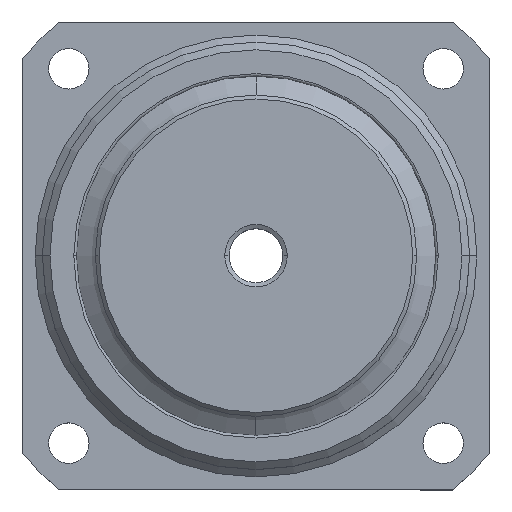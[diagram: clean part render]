
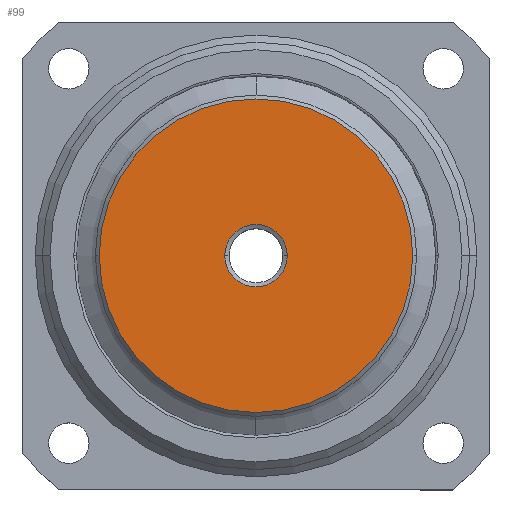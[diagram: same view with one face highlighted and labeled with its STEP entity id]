
A CAD part, top view. The second image highlights one B-rep face of the part: STEP entity #99.
In plain terms, the highlighted planar face has unit normal (0, 0, 1).
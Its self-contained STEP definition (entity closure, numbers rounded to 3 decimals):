
#99=ADVANCED_FACE('',(#227,#228),#229,.T.);
#227=FACE_OUTER_BOUND('',#376,.T.);
#228=FACE_BOUND('',#377,.T.);
#229=PLANE('',#378);
#376=EDGE_LOOP('',(#822,#823));
#377=EDGE_LOOP('',(#824,#825));
#378=AXIS2_PLACEMENT_3D('',#826,#827,#828);
#822=ORIENTED_EDGE('',*,*,#965,.F.);
#823=ORIENTED_EDGE('',*,*,#1071,.F.);
#824=ORIENTED_EDGE('',*,*,#1070,.T.);
#825=ORIENTED_EDGE('',*,*,#968,.T.);
#826=CARTESIAN_POINT('',(30.125,0.0,58.0));
#827=DIRECTION('',(0.0,0.,1.0));
#828=DIRECTION('',(-1.0,0.0,0.0));
#965=EDGE_CURVE('',#1246,#1248,#1249,.T.);
#968=EDGE_CURVE('',#1254,#1251,#1255,.T.);
#1070=EDGE_CURVE('',#1251,#1254,#1417,.T.);
#1071=EDGE_CURVE('',#1248,#1246,#1418,.T.);
#1246=VERTEX_POINT('',#1529);
#1248=VERTEX_POINT('',#1532);
#1249=CIRCLE('',#1533,50.25);
#1251=VERTEX_POINT('',#1536);
#1254=VERTEX_POINT('',#1540);
#1255=CIRCLE('',#1541,10.);
#1417=CIRCLE('',#1744,10.);
#1418=CIRCLE('',#1745,50.25);
#1529=CARTESIAN_POINT('',(50.25,0.0,58.0));
#1532=CARTESIAN_POINT('',(-50.25,0.,58.0));
#1533=AXIS2_PLACEMENT_3D('',#1906,#1907,#1908);
#1536=CARTESIAN_POINT('',(10.,0.0,58.0));
#1540=CARTESIAN_POINT('',(-10.,0.,58.0));
#1541=AXIS2_PLACEMENT_3D('',#1911,#1912,#1913);
#1744=AXIS2_PLACEMENT_3D('',#2135,#2136,#2137);
#1745=AXIS2_PLACEMENT_3D('',#2138,#2139,#2140);
#1906=CARTESIAN_POINT('',(0.0,0.0,58.0));
#1907=DIRECTION('',(0.0,0.,-1.0));
#1908=DIRECTION('',(1.0,0.0,0.0));
#1911=CARTESIAN_POINT('',(0.0,0.0,58.0));
#1912=DIRECTION('',(0.0,0.,-1.0));
#1913=DIRECTION('',(1.0,0.0,0.0));
#2135=CARTESIAN_POINT('',(0.0,0.0,58.0));
#2136=DIRECTION('',(0.0,0.,-1.0));
#2137=DIRECTION('',(1.0,0.0,0.0));
#2138=CARTESIAN_POINT('',(0.0,0.0,58.0));
#2139=DIRECTION('',(0.0,0.,-1.0));
#2140=DIRECTION('',(1.0,0.0,0.0));
